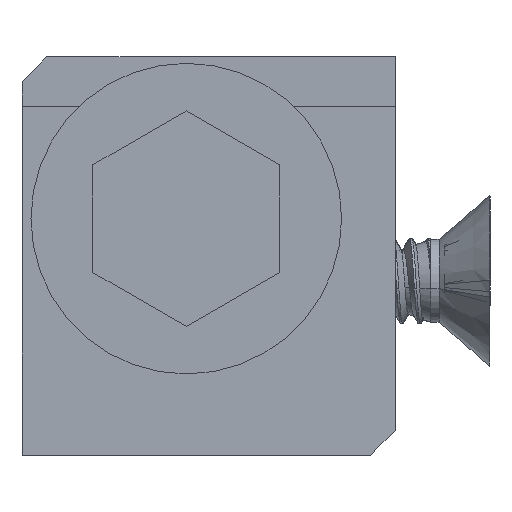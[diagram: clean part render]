
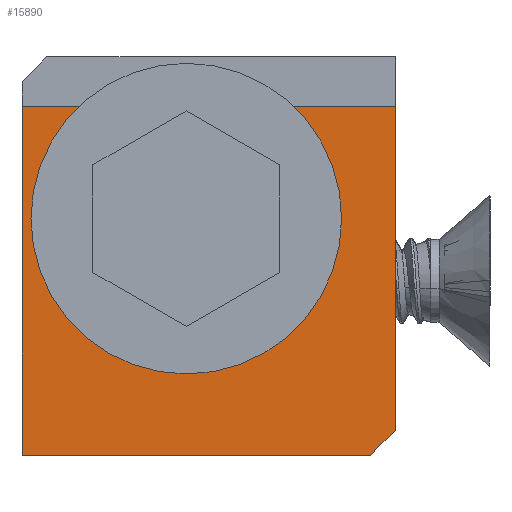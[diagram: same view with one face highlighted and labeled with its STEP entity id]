
A CAD part, left-side view. The second image highlights one B-rep face of the part: STEP entity #15890.
In plain terms, the highlighted planar face has unit normal (-1, 0, 0) as drawn and (0, 0, 1) by its records, which use the part's own axes.
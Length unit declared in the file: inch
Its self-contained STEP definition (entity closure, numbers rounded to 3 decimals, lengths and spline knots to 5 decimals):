
#336 = CARTESIAN_POINT ( 'NONE',  ( 0.3, 0.325, -0.6746 ) ) ;
#533 = LINE ( 'NONE', #6235, #7115 ) ;
#576 = CARTESIAN_POINT ( 'NONE',  ( -0.05, -0.05, -0.6746 ) ) ;
#613 = DIRECTION ( 'NONE',  ( 1., 0., 0. ) ) ;
#947 = AXIS2_PLACEMENT_3D ( 'NONE', #1307, #9566, #9484 ) ;
#1246 = DIRECTION ( 'NONE',  ( 1., 0., 0. ) ) ;
#1307 = CARTESIAN_POINT ( 'NONE',  ( 0.1875, 0.16, -0.6746 ) ) ;
#1692 = AXIS2_PLACEMENT_3D ( 'NONE', #5568, #5658, #1246 ) ;
#1724 = VECTOR ( 'NONE', #10210, 39.37008 ) ;
#1895 = DIRECTION ( 'NONE',  ( -1., 0., 0. ) ) ;
#2112 = EDGE_LOOP ( 'NONE', ( #10110, #17094 ) ) ;
#2393 = VERTEX_POINT ( 'NONE', #16490 ) ;
#2666 = VERTEX_POINT ( 'NONE', #2944 ) ;
#2944 = CARTESIAN_POINT ( 'NONE',  ( -0.025, -0.05, -0.6746 ) ) ;
#3263 = CARTESIAN_POINT ( 'NONE',  ( -0.05, -0.025, -0.6746 ) ) ;
#3280 = VERTEX_POINT ( 'NONE', #5991 ) ;
#4685 = VERTEX_POINT ( 'NONE', #11721 ) ;
#4746 = AXIS2_PLACEMENT_3D ( 'NONE', #15788, #15973, #613 ) ;
#5568 = CARTESIAN_POINT ( 'NONE',  ( 0.1875, 0.16, -0.6746 ) ) ;
#5658 = DIRECTION ( 'NONE',  ( 0., 0., 1. ) ) ;
#5698 = VERTEX_POINT ( 'NONE', #6594 ) ;
#5960 = VECTOR ( 'NONE', #1895, 39.37008 ) ;
#5991 = CARTESIAN_POINT ( 'NONE',  ( 0.3, 0.325, -0.6746 ) ) ;
#6235 = CARTESIAN_POINT ( 'NONE',  ( -0.05, 0.275, -0.6746 ) ) ;
#6269 = VECTOR ( 'NONE', #15258, 39.37008 ) ;
#6431 = EDGE_LOOP ( 'NONE', ( #11624, #16900, #14221, #17572, #12973 ) ) ;
#6453 = EDGE_CURVE ( 'NONE', #4685, #3280, #12671, .T. ) ;
#6594 = CARTESIAN_POINT ( 'NONE',  ( -0.05, 0.325, -0.6746 ) ) ;
#7115 = VECTOR ( 'NONE', #17278, 39.37008 ) ;
#9287 = DIRECTION ( 'NONE',  ( -0.707, 0.707, 0. ) ) ;
#9342 = VECTOR ( 'NONE', #9287, 39.37008 ) ;
#9484 = DIRECTION ( 'NONE',  ( 1., 0., 0. ) ) ;
#9566 = DIRECTION ( 'NONE',  ( 0., 0., 1. ) ) ;
#10079 = EDGE_CURVE ( 'NONE', #5698, #15907, #533, .T. ) ;
#10110 = ORIENTED_EDGE ( 'NONE', *, *, #10917, .F. ) ;
#10122 = LINE ( 'NONE', #576, #1724 ) ;
#10210 = DIRECTION ( 'NONE',  ( 1., 0., 0. ) ) ;
#10245 = FACE_BOUND ( 'NONE', #2112, .T. ) ;
#10666 = LINE ( 'NONE', #16312, #9342 ) ;
#10917 = EDGE_CURVE ( 'NONE', #13283, #2393, #17690, .T. ) ;
#11458 = LINE ( 'NONE', #336, #5960 ) ;
#11624 = ORIENTED_EDGE ( 'NONE', *, *, #11656, .T. ) ;
#11656 = EDGE_CURVE ( 'NONE', #2666, #4685, #10122, .T. ) ;
#11721 = CARTESIAN_POINT ( 'NONE',  ( 0.3, -0.05, -0.6746 ) ) ;
#12321 = EDGE_CURVE ( 'NONE', #2666, #15907, #10666, .T. ) ;
#12671 = LINE ( 'NONE', #16926, #6269 ) ;
#12973 = ORIENTED_EDGE ( 'NONE', *, *, #12321, .F. ) ;
#13012 = PLANE ( 'NONE',  #4746 ) ;
#13283 = VERTEX_POINT ( 'NONE', #17175 ) ;
#14221 = ORIENTED_EDGE ( 'NONE', *, *, #17947, .T. ) ;
#14399 = FACE_OUTER_BOUND ( 'NONE', #6431, .T. ) ;
#14449 = CIRCLE ( 'NONE', #947, 0.0735 ) ;
#15258 = DIRECTION ( 'NONE',  ( 0., 1., 0. ) ) ;
#15788 = CARTESIAN_POINT ( 'NONE',  ( 0., 0., -0.6746 ) ) ;
#15890 = ADVANCED_FACE ( 'NONE', ( #10245, #14399 ), #13012, .T. ) ;
#15907 = VERTEX_POINT ( 'NONE', #3263 ) ;
#15973 = DIRECTION ( 'NONE',  ( 0., 0., 1. ) ) ;
#16034 = EDGE_CURVE ( 'NONE', #2393, #13283, #14449, .T. ) ;
#16312 = CARTESIAN_POINT ( 'NONE',  ( -0.025, -0.05, -0.6746 ) ) ;
#16490 = CARTESIAN_POINT ( 'NONE',  ( 0.114, 0.16, -0.6746 ) ) ;
#16900 = ORIENTED_EDGE ( 'NONE', *, *, #6453, .T. ) ;
#16926 = CARTESIAN_POINT ( 'NONE',  ( 0.3, -0.05, -0.6746 ) ) ;
#17094 = ORIENTED_EDGE ( 'NONE', *, *, #16034, .F. ) ;
#17175 = CARTESIAN_POINT ( 'NONE',  ( 0.261, 0.16, -0.6746 ) ) ;
#17278 = DIRECTION ( 'NONE',  ( 0., -1., 0. ) ) ;
#17572 = ORIENTED_EDGE ( 'NONE', *, *, #10079, .T. ) ;
#17690 = CIRCLE ( 'NONE', #1692, 0.0735 ) ;
#17947 = EDGE_CURVE ( 'NONE', #3280, #5698, #11458, .T. ) ;
